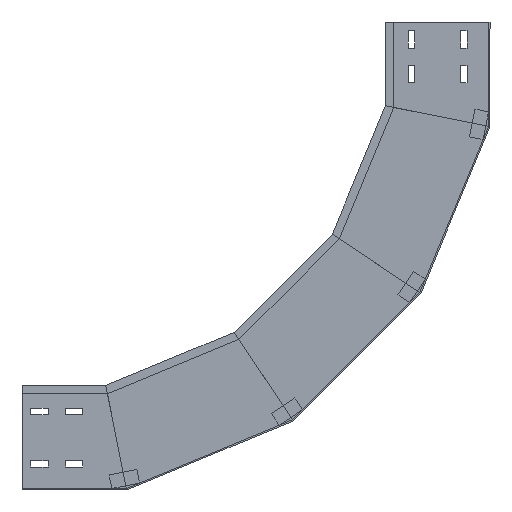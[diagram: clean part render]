
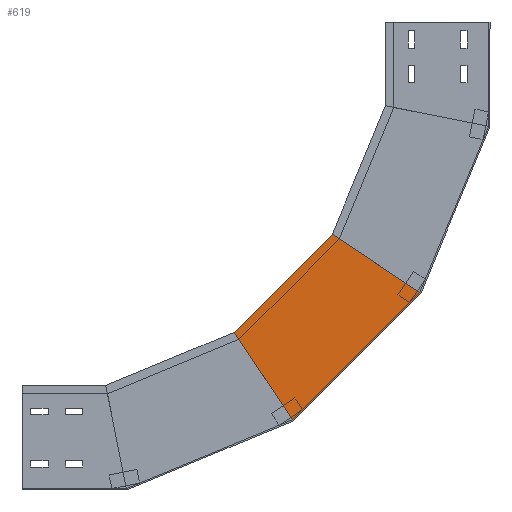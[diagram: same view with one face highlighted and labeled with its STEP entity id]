
A CAD part, left-side view. The second image highlights one B-rep face of the part: STEP entity #619.
In plain terms, the highlighted planar face has unit normal (-1, 0, 0) as drawn and (1, 0, 0) by its records, which use the part's own axes.
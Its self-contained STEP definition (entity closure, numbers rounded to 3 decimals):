
#86 = EDGE_CURVE ( 'NONE', #1297, #2121, #1359, .T. ) ;
#98 = DIRECTION ( 'NONE',  ( 0., -0.556, -0.831 ) ) ;
#130 = CARTESIAN_POINT ( 'NONE',  ( 0., 310.328, -530.413 ) ) ;
#157 = LINE ( 'NONE', #1880, #397 ) ;
#269 = CARTESIAN_POINT ( 'NONE',  ( 0., 282.256, -572.425 ) ) ;
#329 = ORIENTED_EDGE ( 'NONE', *, *, #594, .T. ) ;
#351 = ORIENTED_EDGE ( 'NONE', *, *, #834, .T. ) ;
#396 = DIRECTION ( 'NONE',  ( 0., -0.831, -0.556 ) ) ;
#397 = VECTOR ( 'NONE', #396, 1000. ) ;
#436 = VERTEX_POINT ( 'NONE', #269 ) ;
#463 = DIRECTION ( 'NONE',  ( 0., 0.707, -0.707 ) ) ;
#505 = CARTESIAN_POINT ( 'NONE',  ( 0., 367.224, -445.262 ) ) ;
#585 = CARTESIAN_POINT ( 'NONE',  ( 0., 99.115, -389.285 ) ) ;
#594 = EDGE_CURVE ( 'NONE', #1297, #917, #157, .T. ) ;
#619 = ADVANCED_FACE ( 'NONE', ( #1501 ), #2254, .F. ) ;
#834 = EDGE_CURVE ( 'NONE', #917, #436, #1753, .T. ) ;
#886 = ORIENTED_EDGE ( 'NONE', *, *, #86, .F. ) ;
#903 = ORIENTED_EDGE ( 'NONE', *, *, #1022, .F. ) ;
#917 = VERTEX_POINT ( 'NONE', #1069 ) ;
#1022 = EDGE_CURVE ( 'NONE', #2121, #436, #1025, .T. ) ;
#1025 = LINE ( 'NONE', #130, #1361 ) ;
#1069 = CARTESIAN_POINT ( 'NONE',  ( 0., 99.115, -389.285 ) ) ;
#1222 = DIRECTION ( 'NONE',  ( 0., 0.707, -0.707 ) ) ;
#1273 = DIRECTION ( 'NONE',  ( -1., 0., 0. ) ) ;
#1297 = VERTEX_POINT ( 'NONE', #1740 ) ;
#1359 = LINE ( 'NONE', #2316, #1393 ) ;
#1361 = VECTOR ( 'NONE', #98, 1000. ) ;
#1393 = VECTOR ( 'NONE', #463, 1000. ) ;
#1499 = EDGE_LOOP ( 'NONE', ( #886, #329, #351, #903 ) ) ;
#1501 = FACE_OUTER_BOUND ( 'NONE', #1499, .T. ) ;
#1740 = CARTESIAN_POINT ( 'NONE',  ( 0., 226.279, -304.317 ) ) ;
#1753 = LINE ( 'NONE', #2346, #2391 ) ;
#1871 = AXIS2_PLACEMENT_3D ( 'NONE', #585, #1273, #2206 ) ;
#1880 = CARTESIAN_POINT ( 'NONE',  ( 0., 141.128, -361.213 ) ) ;
#2121 = VERTEX_POINT ( 'NONE', #505 ) ;
#2206 = DIRECTION ( 'NONE',  ( 0., 0., 1. ) ) ;
#2254 = PLANE ( 'NONE',  #1871 ) ;
#2316 = CARTESIAN_POINT ( 'NONE',  ( 0., 205.181, -283.219 ) ) ;
#2346 = CARTESIAN_POINT ( 'NONE',  ( 0., 99.115, -389.285 ) ) ;
#2391 = VECTOR ( 'NONE', #1222, 1000. ) ;
